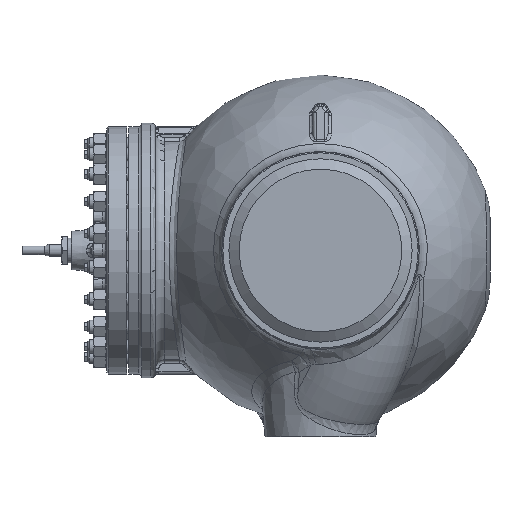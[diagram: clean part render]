
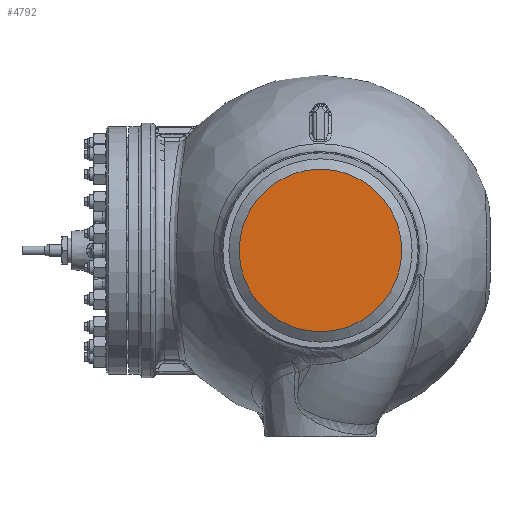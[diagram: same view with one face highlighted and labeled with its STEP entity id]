
A CAD part, left-side view. The second image highlights one B-rep face of the part: STEP entity #4792.
In plain terms, the highlighted planar face has unit normal (-1, 0, 0).
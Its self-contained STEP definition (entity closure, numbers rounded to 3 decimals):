
#318=PLANE('',#21353);
#2409=FACE_OUTER_BOUND('',#7741,.T.);
#4792=ADVANCED_FACE('',(#2409),#318,.T.);
#7741=EDGE_LOOP('',(#9777));
#9777=ORIENTED_EDGE('',*,*,#17484,.T.);
#15563=VERTEX_POINT('',#30177);
#17484=EDGE_CURVE('',#15563,#15563,#20316,.T.);
#20316=CIRCLE('',#21352,183.26);
#21352=AXIS2_PLACEMENT_3D('',#30176,#23764,#23765);
#21353=AXIS2_PLACEMENT_3D('',#30178,#23766,#23767);
#23764=DIRECTION('',(-1.,0.,0.));
#23765=DIRECTION('',(0.,0.,1.));
#23766=DIRECTION('',(-1.,0.,0.));
#23767=DIRECTION('',(0.,0.,1.));
#30176=CARTESIAN_POINT('',(-554.,0.,0.));
#30177=CARTESIAN_POINT('',(-554.,0.,183.26));
#30178=CARTESIAN_POINT('',(-554.,181.76,0.));
